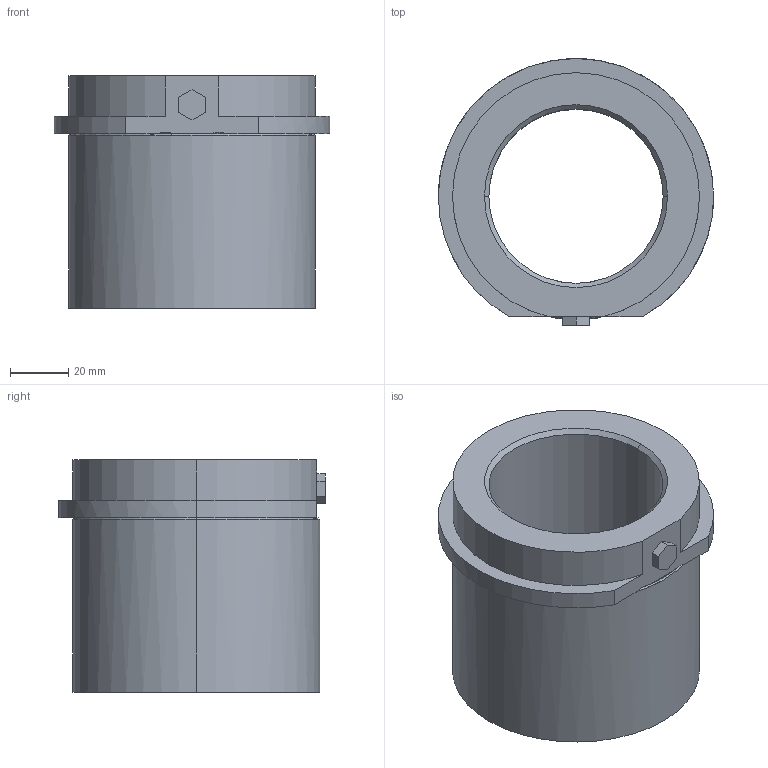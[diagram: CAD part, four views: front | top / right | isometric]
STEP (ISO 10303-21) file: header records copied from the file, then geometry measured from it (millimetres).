
FILE_DESCRIPTION(('CATIA V5 STEP Exchange'),'2;1');
FILE_NAME('C:\Users\Utente\Desktop\IO LAVORO\3D X SITO CF\X SITO\740\740-60.stp','2021-01-18T19:29:47+00:00',('none'),('none'),'CATIA Version 5 Release 20 GA (IN-10)','CATIA V5 STEP AP203','none');
FILE_SCHEMA(('CONFIG_CONTROL_DESIGN'));
Length unit declared in the file: millimetre
Products named in the file (1): 740-60
Assembly tree (1 placements, depth 2):
  740-60
    #58
Bounding box: 94.8 x 91.9 x 80 mm (x, y, z)
Volume: 233975.8 mm3; surface area: 45062 mm2
Topology: 1 solids, 1 shells, 35 faces, 88 edges, 57 vertices
Faces by surface type: plane 14, cylinder 12, torus 5, cone 4
Entity records: 1337 total; most frequent: CARTESIAN_POINT 475, ORIENTED_EDGE 176, DIRECTION 139, EDGE_CURVE 88, AXIS2_PLACEMENT_3D 63, VERTEX_POINT 57, VECTOR 42, LINE 42
